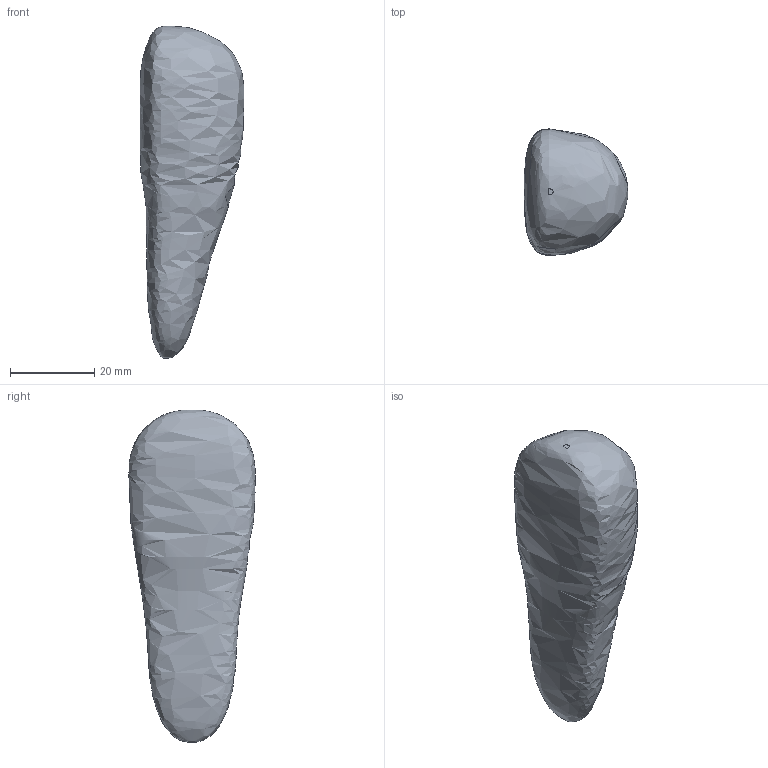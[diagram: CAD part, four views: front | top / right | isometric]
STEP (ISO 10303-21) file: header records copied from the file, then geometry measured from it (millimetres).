
FILE_DESCRIPTION(('Open CASCADE Model'),'2;1');
FILE_NAME('Open CASCADE Shape Model','2026-11-11T21:48:20',('Author'),( 'Open CASCADE'),'Open CASCADE STEP processor 8.0','build123d', 'Unknown');
FILE_SCHEMA(('AUTOMOTIVE_DESIGN { 1 0 10303 214 1 1 1 1 }'));
Length unit declared in the file: millimetre
Products named in the file (1): SOLID
Bounding box: 24.67 x 29.98 x 78.86 mm (x, y, z)
Volume: 29575.1 mm3; surface area: 5745 mm2
Topology: 1 solids, 1 shells, 3 faces, 5 edges, 2 vertices
Faces by surface type: plane 2, bspline 1
Entity records: 11625 total; most frequent: CARTESIAN_POINT 11549, DIRECTION 10, ORIENTED_EDGE 6, PCURVE 6, DEFINITIONAL_REPRESENTATION 6, B_SPLINE_CURVE_WITH_KNOTS 4, LINE 4, VECTOR 4
